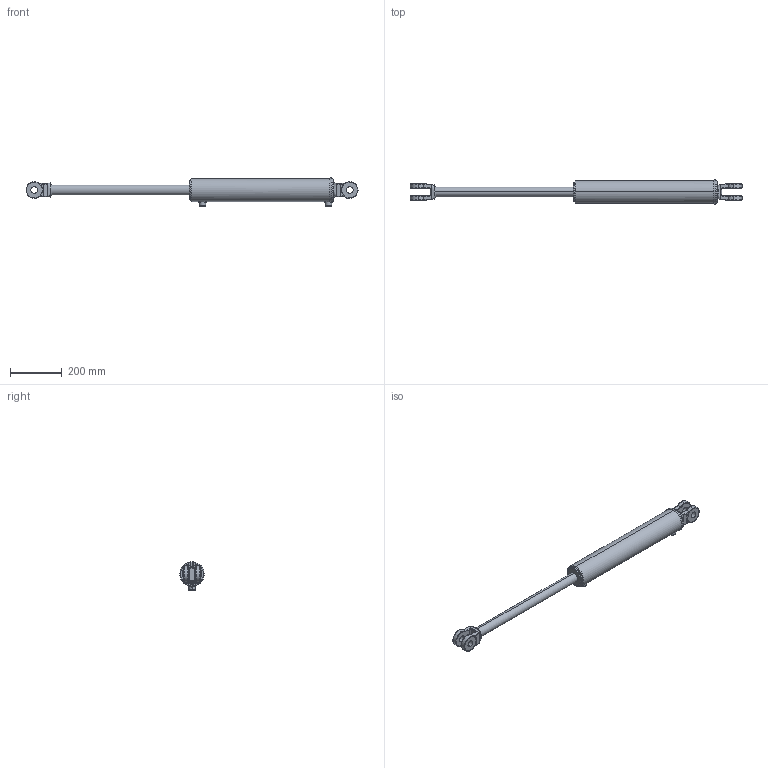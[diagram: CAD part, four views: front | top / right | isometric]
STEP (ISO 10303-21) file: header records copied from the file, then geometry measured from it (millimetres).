
FILE_DESCRIPTION (( 'STEP AP203' ), '1' );
FILE_NAME ('CL-CL300150x457 (18) extended.STEP', '2014-11-21T23:28:33', ( '' ), ( '' ), 'SwSTEP 2.0', 'SolidWorks 2014', '' );
FILE_SCHEMA (( 'CONFIG_CONTROL_DESIGN' ));
Length unit declared in the file: millimetre
Products named in the file (4): CL-CL300150x457 (18) extended; CL-CL300150x  body_3x18; 3 in ext circlip; SPARE 6_18x1.5
Assembly tree (3 placements, depth 2):
  CL-CL300150x457 (18) extended
    CL-CL300150x  body_3x18
    3 in ext circlip
    SPARE 6_18x1.5
Bounding box: 1288.39 x 94.87 x 109.9 mm (x, y, z)
Volume: 3965871.8 mm3; surface area: 357538.3 mm2
Topology: 3 solids, 3 shells, 212 faces, 515 edges, 316 vertices
Faces by surface type: cylinder 92, bspline 61, plane 37, torus 14, cone 8
Entity records: 11771 total; most frequent: CARTESIAN_POINT 6695, ORIENTED_EDGE 1022, DIRECTION 943, EDGE_CURVE 511, AXIS2_PLACEMENT_3D 393, VERTEX_POINT 316, CIRCLE 236, EDGE_LOOP 235
